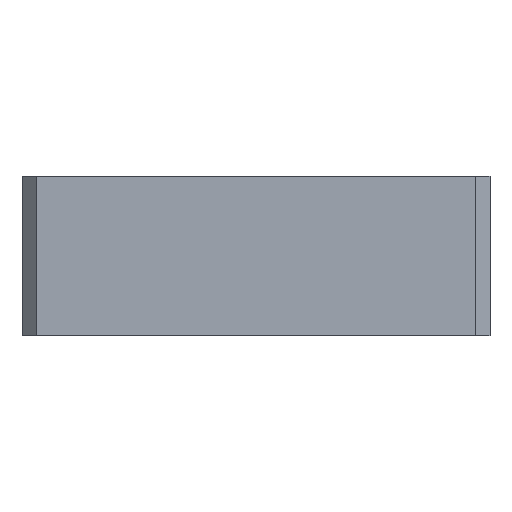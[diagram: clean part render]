
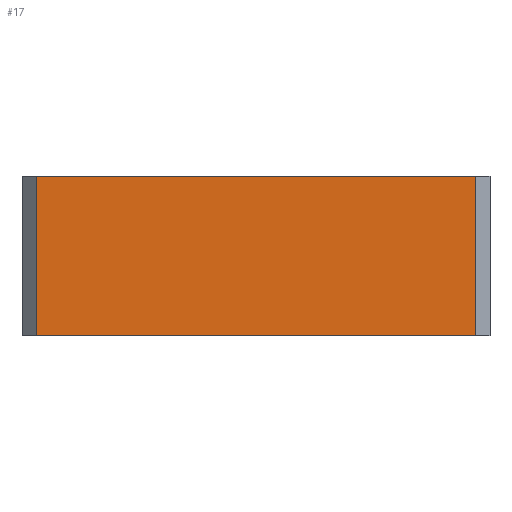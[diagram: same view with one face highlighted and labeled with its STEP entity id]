
A CAD part, front view. The second image highlights one B-rep face of the part: STEP entity #17.
In plain terms, the highlighted planar face has unit normal (0, -1, 0).
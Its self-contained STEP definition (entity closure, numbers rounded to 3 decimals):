
#17 = ADVANCED_FACE('',(#18),#32,.F.);
#18 = FACE_BOUND('',#19,.F.);
#19 = EDGE_LOOP('',(#20,#55,#83,#111));
#20 = ORIENTED_EDGE('',*,*,#21,.T.);
#21 = EDGE_CURVE('',#22,#24,#26,.T.);
#22 = VERTEX_POINT('',#23);
#23 = CARTESIAN_POINT('',(-38.5,-55.,0.));
#24 = VERTEX_POINT('',#25);
#25 = CARTESIAN_POINT('',(-38.5,-55.,28.));
#26 = SURFACE_CURVE('',#27,(#31,#43),.PCURVE_S1.);
#27 = LINE('',#28,#29);
#28 = CARTESIAN_POINT('',(-38.5,-55.,0.));
#29 = VECTOR('',#30,1.);
#30 = DIRECTION('',(0.,0.,1.));
#31 = PCURVE('',#32,#37);
#32 = PLANE('',#33);
#33 = AXIS2_PLACEMENT_3D('',#34,#35,#36);
#34 = CARTESIAN_POINT('',(-38.5,-55.,0.));
#35 = DIRECTION('',(0.,1.,0.));
#36 = DIRECTION('',(1.,0.,0.));
#37 = DEFINITIONAL_REPRESENTATION('',(#38),#42);
#38 = LINE('',#39,#40);
#39 = CARTESIAN_POINT('',(0.,0.));
#40 = VECTOR('',#41,1.);
#41 = DIRECTION('',(0.,-1.));
#42 = ( GEOMETRIC_REPRESENTATION_CONTEXT(2) 
PARAMETRIC_REPRESENTATION_CONTEXT() REPRESENTATION_CONTEXT('2D SPACE',''
  ) );
#43 = PCURVE('',#44,#49);
#44 = PLANE('',#45);
#45 = AXIS2_PLACEMENT_3D('',#46,#47,#48);
#46 = CARTESIAN_POINT('',(-41.,-52.5,0.));
#47 = DIRECTION('',(0.707,0.707,-0.));
#48 = DIRECTION('',(0.707,-0.707,0.));
#49 = DEFINITIONAL_REPRESENTATION('',(#50),#54);
#50 = LINE('',#51,#52);
#51 = CARTESIAN_POINT('',(3.536,0.));
#52 = VECTOR('',#53,1.);
#53 = DIRECTION('',(0.,-1.));
#54 = ( GEOMETRIC_REPRESENTATION_CONTEXT(2) 
PARAMETRIC_REPRESENTATION_CONTEXT() REPRESENTATION_CONTEXT('2D SPACE',''
  ) );
#55 = ORIENTED_EDGE('',*,*,#56,.T.);
#56 = EDGE_CURVE('',#24,#57,#59,.T.);
#57 = VERTEX_POINT('',#58);
#58 = CARTESIAN_POINT('',(38.5,-55.,28.));
#59 = SURFACE_CURVE('',#60,(#64,#71),.PCURVE_S1.);
#60 = LINE('',#61,#62);
#61 = CARTESIAN_POINT('',(-38.5,-55.,28.));
#62 = VECTOR('',#63,1.);
#63 = DIRECTION('',(1.,0.,0.));
#64 = PCURVE('',#32,#65);
#65 = DEFINITIONAL_REPRESENTATION('',(#66),#70);
#66 = LINE('',#67,#68);
#67 = CARTESIAN_POINT('',(0.,-28.));
#68 = VECTOR('',#69,1.);
#69 = DIRECTION('',(1.,0.));
#70 = ( GEOMETRIC_REPRESENTATION_CONTEXT(2) 
PARAMETRIC_REPRESENTATION_CONTEXT() REPRESENTATION_CONTEXT('2D SPACE',''
  ) );
#71 = PCURVE('',#72,#77);
#72 = PLANE('',#73);
#73 = AXIS2_PLACEMENT_3D('',#74,#75,#76);
#74 = CARTESIAN_POINT('',(0.,0.,28.));
#75 = DIRECTION('',(0.,0.,1.));
#76 = DIRECTION('',(1.,0.,-0.));
#77 = DEFINITIONAL_REPRESENTATION('',(#78),#82);
#78 = LINE('',#79,#80);
#79 = CARTESIAN_POINT('',(-38.5,-55.));
#80 = VECTOR('',#81,1.);
#81 = DIRECTION('',(1.,0.));
#82 = ( GEOMETRIC_REPRESENTATION_CONTEXT(2) 
PARAMETRIC_REPRESENTATION_CONTEXT() REPRESENTATION_CONTEXT('2D SPACE',''
  ) );
#83 = ORIENTED_EDGE('',*,*,#84,.F.);
#84 = EDGE_CURVE('',#85,#57,#87,.T.);
#85 = VERTEX_POINT('',#86);
#86 = CARTESIAN_POINT('',(38.5,-55.,0.));
#87 = SURFACE_CURVE('',#88,(#92,#99),.PCURVE_S1.);
#88 = LINE('',#89,#90);
#89 = CARTESIAN_POINT('',(38.5,-55.,0.));
#90 = VECTOR('',#91,1.);
#91 = DIRECTION('',(0.,0.,1.));
#92 = PCURVE('',#32,#93);
#93 = DEFINITIONAL_REPRESENTATION('',(#94),#98);
#94 = LINE('',#95,#96);
#95 = CARTESIAN_POINT('',(77.,0.));
#96 = VECTOR('',#97,1.);
#97 = DIRECTION('',(0.,-1.));
#98 = ( GEOMETRIC_REPRESENTATION_CONTEXT(2) 
PARAMETRIC_REPRESENTATION_CONTEXT() REPRESENTATION_CONTEXT('2D SPACE',''
  ) );
#99 = PCURVE('',#100,#105);
#100 = PLANE('',#101);
#101 = AXIS2_PLACEMENT_3D('',#102,#103,#104);
#102 = CARTESIAN_POINT('',(38.5,-55.,0.));
#103 = DIRECTION('',(-0.707,0.707,0.));
#104 = DIRECTION('',(0.707,0.707,0.));
#105 = DEFINITIONAL_REPRESENTATION('',(#106),#110);
#106 = LINE('',#107,#108);
#107 = CARTESIAN_POINT('',(0.,0.));
#108 = VECTOR('',#109,1.);
#109 = DIRECTION('',(0.,-1.));
#110 = ( GEOMETRIC_REPRESENTATION_CONTEXT(2) 
PARAMETRIC_REPRESENTATION_CONTEXT() REPRESENTATION_CONTEXT('2D SPACE',''
  ) );
#111 = ORIENTED_EDGE('',*,*,#112,.F.);
#112 = EDGE_CURVE('',#22,#85,#113,.T.);
#113 = SURFACE_CURVE('',#114,(#118,#125),.PCURVE_S1.);
#114 = LINE('',#115,#116);
#115 = CARTESIAN_POINT('',(-38.5,-55.,0.));
#116 = VECTOR('',#117,1.);
#117 = DIRECTION('',(1.,0.,0.));
#118 = PCURVE('',#32,#119);
#119 = DEFINITIONAL_REPRESENTATION('',(#120),#124);
#120 = LINE('',#121,#122);
#121 = CARTESIAN_POINT('',(0.,0.));
#122 = VECTOR('',#123,1.);
#123 = DIRECTION('',(1.,0.));
#124 = ( GEOMETRIC_REPRESENTATION_CONTEXT(2) 
PARAMETRIC_REPRESENTATION_CONTEXT() REPRESENTATION_CONTEXT('2D SPACE',''
  ) );
#125 = PCURVE('',#126,#131);
#126 = PLANE('',#127);
#127 = AXIS2_PLACEMENT_3D('',#128,#129,#130);
#128 = CARTESIAN_POINT('',(0.,0.,0.));
#129 = DIRECTION('',(0.,0.,1.));
#130 = DIRECTION('',(1.,0.,-0.));
#131 = DEFINITIONAL_REPRESENTATION('',(#132),#136);
#132 = LINE('',#133,#134);
#133 = CARTESIAN_POINT('',(-38.5,-55.));
#134 = VECTOR('',#135,1.);
#135 = DIRECTION('',(1.,0.));
#136 = ( GEOMETRIC_REPRESENTATION_CONTEXT(2) 
PARAMETRIC_REPRESENTATION_CONTEXT() REPRESENTATION_CONTEXT('2D SPACE',''
  ) );
